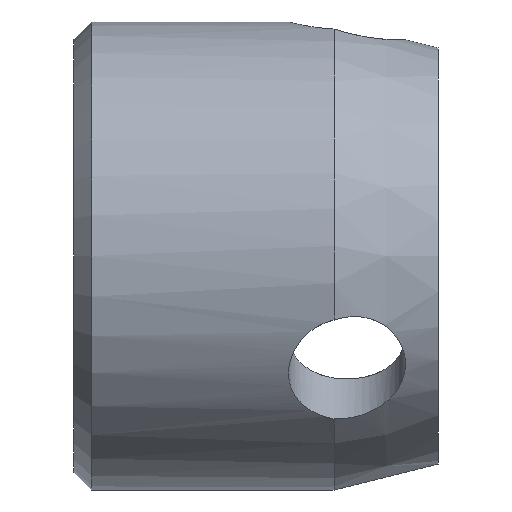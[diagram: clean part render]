
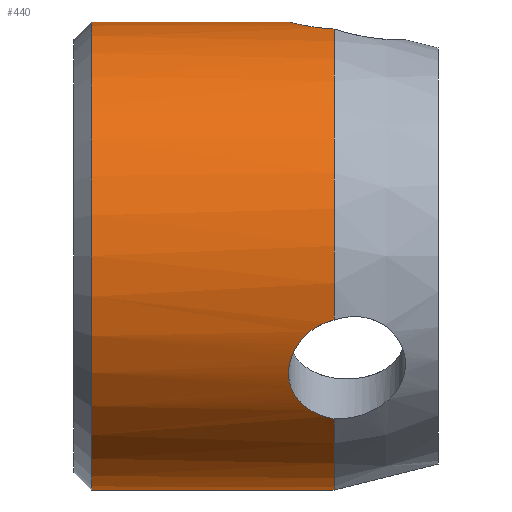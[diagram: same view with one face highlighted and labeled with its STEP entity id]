
A CAD part, front view. The second image highlights one B-rep face of the part: STEP entity #440.
In plain terms, the highlighted cylindrical face has radius 9 mm (diameter 18 mm), a partial arc.
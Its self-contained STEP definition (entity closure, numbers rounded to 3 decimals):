
#13 = CARTESIAN_POINT ( 'NONE',  ( -5.538, -8.243, -3.62 ) ) ;
#27 = EDGE_CURVE ( 'NONE', #272, #976, #601, .T. ) ;
#48 = EDGE_CURVE ( 'NONE', #272, #170, #90, .T. ) ;
#49 = CARTESIAN_POINT ( 'NONE',  ( -13.325, 0., 0. ) ) ;
#63 = CARTESIAN_POINT ( 'NONE',  ( -4.249, -2.137, 8.743 ) ) ;
#67 = DIRECTION ( 'NONE',  ( 1., 0., 0. ) ) ;
#88 = VERTEX_POINT ( 'NONE', #1022 ) ;
#90 = CIRCLE ( 'NONE', #678, 9. ) ;
#94 = EDGE_CURVE ( 'NONE', #88, #429, #230, .T. ) ;
#110 = ORIENTED_EDGE ( 'NONE', *, *, #48, .F. ) ;
#112 = DIRECTION ( 'NONE',  ( 1., 0., 0. ) ) ;
#123 = EDGE_CURVE ( 'NONE', #88, #520, #330, .T. ) ;
#128 = DIRECTION ( 'NONE',  ( 1., 0., 0. ) ) ;
#149 = DIRECTION ( 'NONE',  ( 0., 0., -1. ) ) ;
#157 = CARTESIAN_POINT ( 'NONE',  ( -5.75, 0., 9. ) ) ;
#159 = EDGE_CURVE ( 'NONE', #976, #520, #809, .T. ) ;
#160 = CARTESIAN_POINT ( 'NONE',  ( -4.482, -6.572, -6.151 ) ) ;
#165 = CARTESIAN_POINT ( 'NONE',  ( -4.249, -8.64, -2.521 ) ) ;
#170 = VERTEX_POINT ( 'NONE', #176 ) ;
#171 = CARTESIAN_POINT ( 'NONE',  ( -5.707, -8.037, -4.057 ) ) ;
#175 = LINE ( 'NONE', #878, #736 ) ;
#176 = CARTESIAN_POINT ( 'NONE',  ( -4., 0., -9. ) ) ;
#180 = CIRCLE ( 'NONE', #738, 9. ) ;
#197 = CARTESIAN_POINT ( 'NONE',  ( -13.325, 0., 9. ) ) ;
#230 = B_SPLINE_CURVE_WITH_KNOTS ( 'NONE', 3,
 ( #710, #63, #463, #1011, #316, #551, #487, #232, #391, #856 ),
 .UNSPECIFIED., .F., .F.,
 ( 4, 2, 2, 2, 4 ),
 ( 0., 0.001, 0.002, 0.002, 0.003 ),
 .UNSPECIFIED. ) ;
#232 = CARTESIAN_POINT ( 'NONE',  ( -5.707, -0.505, 8.989 ) ) ;
#240 = CARTESIAN_POINT ( 'NONE',  ( -4., 0., 0. ) ) ;
#249 = CARTESIAN_POINT ( 'NONE',  ( -5.75, -7.922, -4.278 ) ) ;
#272 = VERTEX_POINT ( 'NONE', #926 ) ;
#286 = VECTOR ( 'NONE', #615, 1000. ) ;
#316 = CARTESIAN_POINT ( 'NONE',  ( -5.099, -1.603, 8.858 ) ) ;
#322 = CARTESIAN_POINT ( 'NONE',  ( -4., 0., 0. ) ) ;
#330 = CIRCLE ( 'NONE', #950, 9. ) ;
#342 = CARTESIAN_POINT ( 'NONE',  ( -5.099, -8.473, -3.041 ) ) ;
#367 = ORIENTED_EDGE ( 'NONE', *, *, #474, .F. ) ;
#379 = CARTESIAN_POINT ( 'NONE',  ( -5.538, -7.257, -5.329 ) ) ;
#391 = CARTESIAN_POINT ( 'NONE',  ( -5.75, -0.256, 9. ) ) ;
#407 = DIRECTION ( 'NONE',  ( 1., 0., 0. ) ) ;
#412 = CARTESIAN_POINT ( 'NONE',  ( -4., -8.656, -2.464 ) ) ;
#427 = CARTESIAN_POINT ( 'NONE',  ( -4.911, -8.528, -2.879 ) ) ;
#429 = VERTEX_POINT ( 'NONE', #157 ) ;
#440 = ADVANCED_FACE ( 'NONE', ( #641 ), #958, .T. ) ;
#453 = ORIENTED_EDGE ( 'NONE', *, *, #94, .T. ) ;
#463 = CARTESIAN_POINT ( 'NONE',  ( -4.482, -2.041, 8.767 ) ) ;
#474 = EDGE_CURVE ( 'NONE', #834, #429, #175, .T. ) ;
#476 = CARTESIAN_POINT ( 'NONE',  ( -5.75, -7.794, -4.5 ) ) ;
#487 = CARTESIAN_POINT ( 'NONE',  ( -5.538, -0.987, 8.949 ) ) ;
#490 = DIRECTION ( 'NONE',  ( 0., 0., -1. ) ) ;
#493 = ORIENTED_EDGE ( 'NONE', *, *, #123, .F. ) ;
#497 = CARTESIAN_POINT ( 'NONE',  ( -4.481, -8.612, -2.616 ) ) ;
#498 = EDGE_LOOP ( 'NONE', ( #367, #903, #683, #110, #733, #606, #493, #453 ) ) ;
#520 = VERTEX_POINT ( 'NONE', #742 ) ;
#546 = CARTESIAN_POINT ( 'NONE',  ( -4., -6.462, -6.264 ) ) ;
#551 = CARTESIAN_POINT ( 'NONE',  ( -5.416, -1.206, 8.921 ) ) ;
#601 = B_SPLINE_CURVE_WITH_KNOTS ( 'NONE', 3,
 ( #546, #861, #160, #618, #628, #767, #379, #928, #784, #476 ),
 .UNSPECIFIED., .F., .F.,
 ( 4, 2, 2, 2, 4 ),
 ( 0., 0.001, 0.002, 0.002, 0.003 ),
 .UNSPECIFIED. ) ;
#606 = ORIENTED_EDGE ( 'NONE', *, *, #159, .T. ) ;
#615 = DIRECTION ( 'NONE',  ( 1., 0., 0. ) ) ;
#618 = CARTESIAN_POINT ( 'NONE',  ( -4.912, -6.758, -5.945 ) ) ;
#628 = CARTESIAN_POINT ( 'NONE',  ( -5.099, -6.87, -5.817 ) ) ;
#640 = EDGE_CURVE ( 'NONE', #834, #825, #180, .T. ) ;
#641 = FACE_OUTER_BOUND ( 'NONE', #498, .T. ) ;
#655 = EDGE_CURVE ( 'NONE', #825, #170, #1008, .T. ) ;
#678 = AXIS2_PLACEMENT_3D ( 'NONE', #322, #67, #1016 ) ;
#683 = ORIENTED_EDGE ( 'NONE', *, *, #655, .T. ) ;
#692 = DIRECTION ( 'NONE',  ( 1., 0., 0. ) ) ;
#710 = CARTESIAN_POINT ( 'NONE',  ( -4., -2.194, 8.729 ) ) ;
#716 = CARTESIAN_POINT ( 'NONE',  ( 21.562, 0., 0. ) ) ;
#733 = ORIENTED_EDGE ( 'NONE', *, *, #27, .T. ) ;
#736 = VECTOR ( 'NONE', #112, 1000. ) ;
#738 = AXIS2_PLACEMENT_3D ( 'NONE', #49, #128, #760 ) ;
#742 = CARTESIAN_POINT ( 'NONE',  ( -4., -8.656, -2.464 ) ) ;
#760 = DIRECTION ( 'NONE',  ( 0., 0., 1. ) ) ;
#767 = CARTESIAN_POINT ( 'NONE',  ( -5.416, -7.123, -5.505 ) ) ;
#770 = CARTESIAN_POINT ( 'NONE',  ( 21.562, 0., -9. ) ) ;
#784 = CARTESIAN_POINT ( 'NONE',  ( -5.75, -7.666, -4.722 ) ) ;
#809 = B_SPLINE_CURVE_WITH_KNOTS ( 'NONE', 3,
 ( #869, #249, #171, #13, #960, #342, #427, #497, #165, #412 ),
 .UNSPECIFIED., .F., .F.,
 ( 4, 2, 2, 2, 4 ),
 ( 0.003, 0.004, 0.005, 0.005, 0.006 ),
 .UNSPECIFIED. ) ;
#821 = CARTESIAN_POINT ( 'NONE',  ( -13.325, 0., -9. ) ) ;
#825 = VERTEX_POINT ( 'NONE', #821 ) ;
#834 = VERTEX_POINT ( 'NONE', #197 ) ;
#856 = CARTESIAN_POINT ( 'NONE',  ( -5.75, 0., 9. ) ) ;
#861 = CARTESIAN_POINT ( 'NONE',  ( -4.249, -6.503, -6.222 ) ) ;
#869 = CARTESIAN_POINT ( 'NONE',  ( -5.75, -7.794, -4.5 ) ) ;
#878 = CARTESIAN_POINT ( 'NONE',  ( 21.562, 0., 9. ) ) ;
#903 = ORIENTED_EDGE ( 'NONE', *, *, #640, .T. ) ;
#926 = CARTESIAN_POINT ( 'NONE',  ( -4., -6.462, -6.264 ) ) ;
#928 = CARTESIAN_POINT ( 'NONE',  ( -5.707, -7.532, -4.932 ) ) ;
#950 = AXIS2_PLACEMENT_3D ( 'NONE', #240, #692, #149 ) ;
#958 = CYLINDRICAL_SURFACE ( 'NONE', #1004, 9. ) ;
#960 = CARTESIAN_POINT ( 'NONE',  ( -5.416, -8.329, -3.415 ) ) ;
#976 = VERTEX_POINT ( 'NONE', #1012 ) ;
#1004 = AXIS2_PLACEMENT_3D ( 'NONE', #716, #407, #490 ) ;
#1008 = LINE ( 'NONE', #770, #286 ) ;
#1011 = CARTESIAN_POINT ( 'NONE',  ( -4.912, -1.77, 8.825 ) ) ;
#1012 = CARTESIAN_POINT ( 'NONE',  ( -5.75, -7.794, -4.5 ) ) ;
#1016 = DIRECTION ( 'NONE',  ( 0., 0., -1. ) ) ;
#1022 = CARTESIAN_POINT ( 'NONE',  ( -4., -2.194, 8.729 ) ) ;
